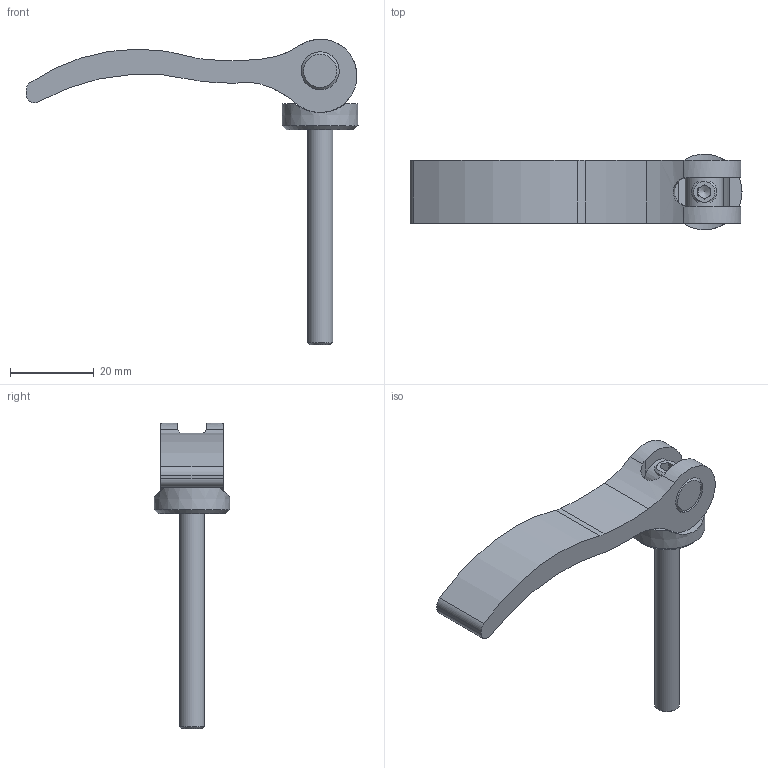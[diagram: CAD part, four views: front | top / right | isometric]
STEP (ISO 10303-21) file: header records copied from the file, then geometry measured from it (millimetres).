
FILE_DESCRIPTION(('STEP AP203'), '1');
FILE_NAME('À00360.11790620 _ Ýêñöåíòðèê 79 ìì', '', ('UNSPECIFIED'), ('UNSPECIFIED'), 'C3D Converter', 'C3D Toolkit', '');
FILE_SCHEMA(('CONFIG_CONTROL_DESIGN'));
Length unit declared in the file: millimetre
Products named in the file (5): А00360.79.03; А00360.79.02; А00360.79.01
Assembly tree (4 placements, depth 2):
  (unnamed)
    А00360.79.03
    А00360.79.02
    А00360.79.01
    (unnamed)
Bounding box: 79.33 x 18.07 x 73 mm (x, y, z)
Volume: 10928.4 mm3; surface area: 6927 mm2
Topology: 4 solids, 4 shells, 52 faces, 128 edges, 82 vertices
Faces by surface type: plane 24, cylinder 21, cone 7
Full cylindrical faces by diameter (mm): 4.917 x1, 6 x1, 6.6 x1, 9.1 x3
Entity records: 2382 total; most frequent: CARTESIAN_POINT 913, DIRECTION 269, ORIENTED_EDGE 228, EDGE_CURVE 114, AXIS2_PLACEMENT_3D 111, VERTEX_POINT 81, EDGE_LOOP 71, FACE_BOUND 54
